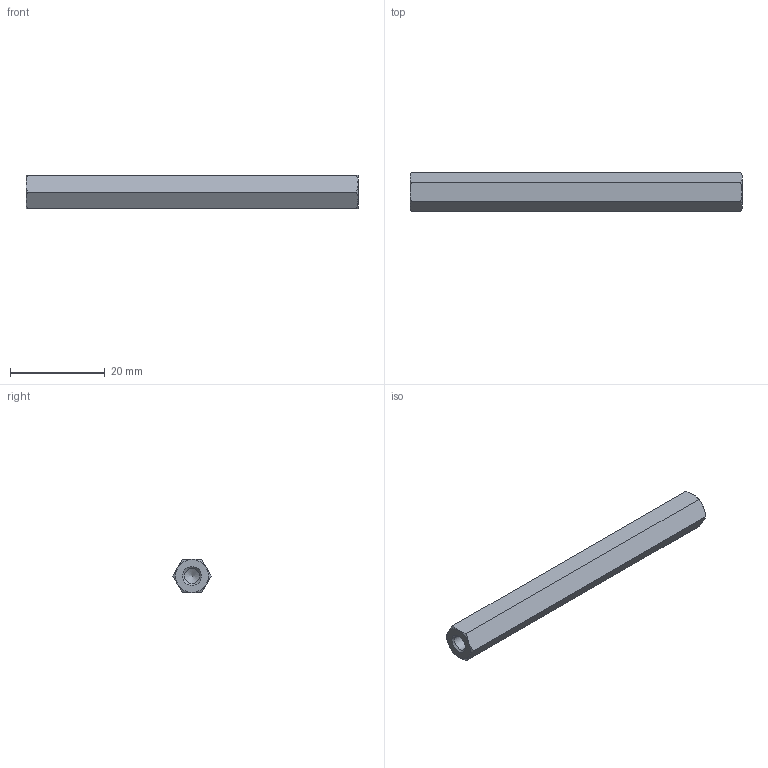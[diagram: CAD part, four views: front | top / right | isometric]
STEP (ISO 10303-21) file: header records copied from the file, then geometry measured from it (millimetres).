
FILE_DESCRIPTION( ( 'STEP AP203' ), '1' );
FILE_NAME( 'C:/Temp/Ganter_Step_05_03_2020/data/3_2/gn6220/gn6220_ni/Stainless Steel-Spacer GN 6220-NI-M4-70-A.stp', '2020-03-13T05:42:59', ( 'License CC BY-ND 4.0' ), ( 'CADENAS' ), ' ', 'PARTsolutions', ' ' );
FILE_SCHEMA( ( 'CONFIG_CONTROL_DESIGN' ) );
Length unit declared in the file: millimetre
Products named in the file (1): _Stainless Steel-Spacer GN 6220-NI-M4-70-A
Bounding box: 70 x 8.08 x 7 mm (x, y, z)
Volume: 2735 mm3; surface area: 2058 mm2
Topology: 1 solids, 1 shells, 26 faces, 57 edges, 33 vertices
Faces by surface type: cone 16, plane 8, cylinder 2
Full cylindrical faces by diameter (mm): 3.242 x2
Entity records: 750 total; most frequent: CARTESIAN_POINT 211, DIRECTION 96, ORIENTED_EDGE 96, EDGE_CURVE 48, AXIS2_PLACEMENT_3D 45, EDGE_LOOP 32, VERTEX_POINT 32, FACE_OUTER_BOUND 28
